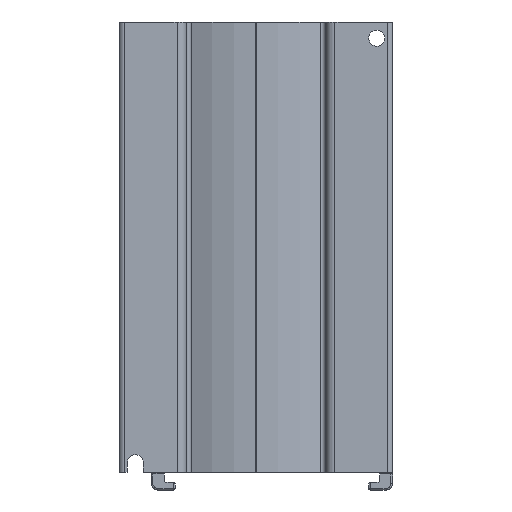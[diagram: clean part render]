
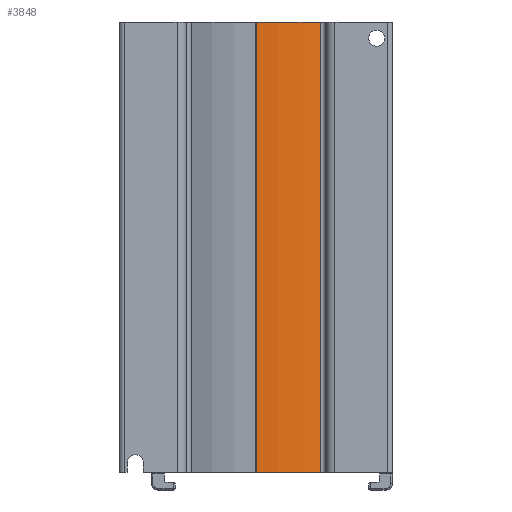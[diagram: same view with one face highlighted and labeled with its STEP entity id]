
A CAD part, front view. The second image highlights one B-rep face of the part: STEP entity #3848.
In plain terms, the highlighted cylindrical face has radius 46.4 mm (diameter 92.8 mm), a partial arc.
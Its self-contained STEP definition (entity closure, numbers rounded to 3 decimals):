
#264=CARTESIAN_POINT('',(0.,-19.268,140.));
#265=DIRECTION('',(0.,0.,1.));
#266=DIRECTION('',(0.,-1.,0.));
#267=AXIS2_PLACEMENT_3D('',#264,#265,#266);
#336=CARTESIAN_POINT('',(0.,-19.268,0.));
#337=DIRECTION('',(0.,0.,1.));
#338=DIRECTION('',(0.,-1.,0.));
#339=AXIS2_PLACEMENT_3D('',#336,#337,#338);
#837=DIRECTION('',(0.,0.,-1.));
#838=VECTOR('',#837,140.);
#839=CARTESIAN_POINT('',(0.,-65.668,140.));
#840=LINE('',#839,#838);
#841=DIRECTION('',(0.,0.,1.));
#842=VECTOR('',#841,140.);
#843=CARTESIAN_POINT('',(20.068,-61.104,0.));
#844=LINE('',#843,#842);
#2594=CARTESIAN_POINT('',(20.068,-61.104,0.));
#2595=CARTESIAN_POINT('',(20.068,-61.104,140.));
#2596=VERTEX_POINT('',#2594);
#2597=VERTEX_POINT('',#2595);
#3002=CARTESIAN_POINT('',(0.,-65.668,140.));
#3003=CARTESIAN_POINT('',(0.,-65.668,0.));
#3004=VERTEX_POINT('',#3002);
#3005=VERTEX_POINT('',#3003);
#3836=CARTESIAN_POINT('',(0.,-19.268,140.));
#3837=DIRECTION('',(0.,0.,1.));
#3838=DIRECTION('',(1.,0.,0.));
#3839=AXIS2_PLACEMENT_3D('',#3836,#3837,#3838);
#3840=CYLINDRICAL_SURFACE('',#3839,46.4);
#3841=ORIENTED_EDGE('',*,*,#3792,.F.);
#3842=ORIENTED_EDGE('',*,*,#3323,.T.);
#3844=ORIENTED_EDGE('',*,*,#3843,.F.);
#3845=ORIENTED_EDGE('',*,*,#3397,.F.);
#3846=EDGE_LOOP('',(#3841,#3842,#3844,#3845));
#3847=FACE_OUTER_BOUND('',#3846,.F.);
#268=CIRCLE('',#267,46.4);
#340=CIRCLE('',#339,46.4);
#3323=EDGE_CURVE('',#3004,#2597,#268,.T.);
#3397=EDGE_CURVE('',#3005,#2596,#340,.T.);
#3792=EDGE_CURVE('',#3004,#3005,#840,.T.);
#3843=EDGE_CURVE('',#2596,#2597,#844,.T.);
#3848=ADVANCED_FACE('',(#3847),#3840,.T.);
